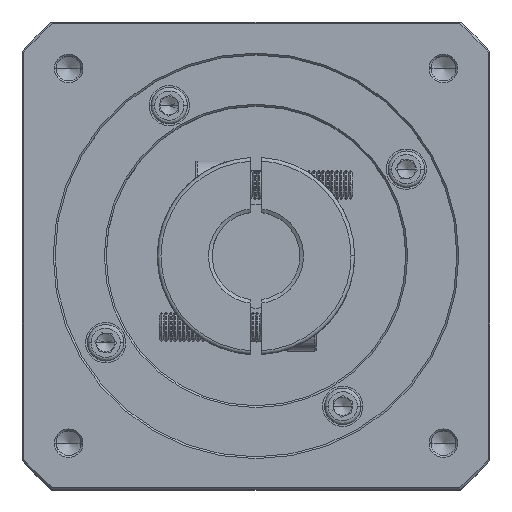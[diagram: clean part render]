
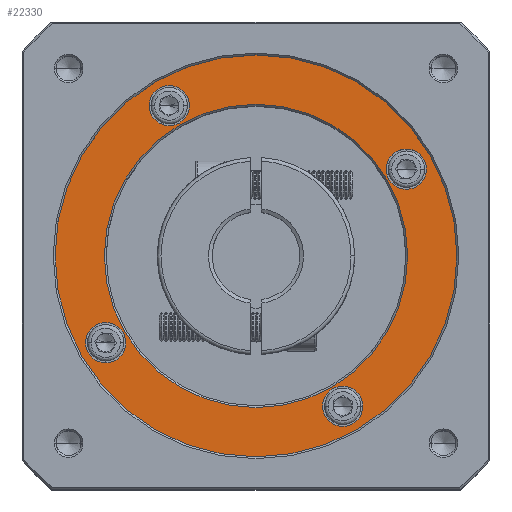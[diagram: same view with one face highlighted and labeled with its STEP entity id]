
A CAD part, top view. The second image highlights one B-rep face of the part: STEP entity #22330.
In plain terms, the highlighted planar face has unit normal (0, 0, 1).
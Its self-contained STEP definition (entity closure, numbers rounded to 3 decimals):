
#5219 = FACE_BOUND ( 'NONE', #47564, .T. ) ;
#5748 = VERTEX_POINT ( 'NONE', #69668 ) ;
#6393 = EDGE_CURVE ( 'NONE', #105119, #36752, #63730, .T. ) ;
#7152 = CARTESIAN_POINT ( 'NONE',  ( 24.26, 90.67, -0.976 ) ) ;
#7318 = ORIENTED_EDGE ( 'NONE', *, *, #81987, .T. ) ;
#8008 = ORIENTED_EDGE ( 'NONE', *, *, #84138, .T. ) ;
#8531 = DIRECTION ( 'NONE',  ( 1., 0., 0. ) ) ;
#9191 = EDGE_CURVE ( 'NONE', #5748, #97980, #69752, .T. ) ;
#10455 = AXIS2_PLACEMENT_3D ( 'NONE', #18388, #80839, #27429 ) ;
#10534 = EDGE_CURVE ( 'NONE', #74506, #17210, #57697, .T. ) ;
#11424 = CIRCLE ( 'NONE', #105085, 5.5 ) ;
#14105 = DIRECTION ( 'NONE',  ( 0., 0., -1. ) ) ;
#14406 = DIRECTION ( 'NONE',  ( 0., 0., -1. ) ) ;
#15172 = CARTESIAN_POINT ( 'NONE',  ( 59.896, 72.92, -0.976 ) ) ;
#15622 = VERTEX_POINT ( 'NONE', #49373 ) ;
#16678 = CARTESIAN_POINT ( 'NONE',  ( 101.032, 138.17, -0.976 ) ) ;
#16854 = CARTESIAN_POINT ( 'NONE',  ( 59.896, 114.42, -0.976 ) ) ;
#17210 = VERTEX_POINT ( 'NONE', #107295 ) ;
#17821 = EDGE_LOOP ( 'NONE', ( #112086, #58315 ) ) ;
#18333 = VERTEX_POINT ( 'NONE', #33547 ) ;
#18388 = CARTESIAN_POINT ( 'NONE',  ( 36.146, 155.556, -0.976 ) ) ;
#18606 = DIRECTION ( 'NONE',  ( 0., 0., -1. ) ) ;
#18688 = DIRECTION ( 'NONE',  ( 0., 0., -1. ) ) ;
#20865 = EDGE_CURVE ( 'NONE', #15622, #78513, #115205, .T. ) ;
#22330 = ADVANCED_FACE ( 'NONE', ( #100262, #52837, #55567, #29046, #5219, #97443 ), #34437, .T. ) ;
#23027 = AXIS2_PLACEMENT_3D ( 'NONE', #72123, #18606, #81052 ) ;
#24213 = DIRECTION ( 'NONE',  ( 0., 0., -1. ) ) ;
#25748 = DIRECTION ( 'NONE',  ( 1., 0., 0. ) ) ;
#25839 = ORIENTED_EDGE ( 'NONE', *, *, #20865, .T. ) ;
#25905 = DIRECTION ( 'NONE',  ( 1., 0., 0. ) ) ;
#27429 = DIRECTION ( 'NONE',  ( 1., 0., 0. ) ) ;
#28553 = CIRCLE ( 'NONE', #44494, 5.5 ) ;
#29046 = FACE_BOUND ( 'NONE', #79681, .T. ) ;
#30019 = ORIENTED_EDGE ( 'NONE', *, *, #80309, .T. ) ;
#31015 = AXIS2_PLACEMENT_3D ( 'NONE', #49898, #112299, #58830 ) ;
#31908 = AXIS2_PLACEMENT_3D ( 'NONE', #115507, #62113, #8531 ) ;
#33547 = CARTESIAN_POINT ( 'NONE',  ( 4.896, 114.42, -0.976 ) ) ;
#34009 = VERTEX_POINT ( 'NONE', #90938 ) ;
#34437 = PLANE ( 'NONE',  #39187 ) ;
#35274 = VERTEX_POINT ( 'NONE', #15172 ) ;
#35827 = CARTESIAN_POINT ( 'NONE',  ( 59.896, 114.42, -0.976 ) ) ;
#36172 = CARTESIAN_POINT ( 'NONE',  ( 83.646, 73.284, -0.976 ) ) ;
#36752 = VERTEX_POINT ( 'NONE', #37018 ) ;
#37018 = CARTESIAN_POINT ( 'NONE',  ( 78.146, 73.284, -0.976 ) ) ;
#39123 = EDGE_CURVE ( 'NONE', #17210, #74506, #28553, .T. ) ;
#39187 = AXIS2_PLACEMENT_3D ( 'NONE', #16854, #79326, #25905 ) ;
#40710 = AXIS2_PLACEMENT_3D ( 'NONE', #35827, #98269, #44791 ) ;
#40919 = EDGE_CURVE ( 'NONE', #35274, #34009, #83495, .T. ) ;
#44494 = AXIS2_PLACEMENT_3D ( 'NONE', #67861, #14406, #76893 ) ;
#44791 = DIRECTION ( 'NONE',  ( 0., -1., 0. ) ) ;
#45147 = DIRECTION ( 'NONE',  ( 1., 0., 0. ) ) ;
#46100 = CARTESIAN_POINT ( 'NONE',  ( 36.146, 155.556, -0.976 ) ) ;
#47564 = EDGE_LOOP ( 'NONE', ( #60559, #8008 ) ) ;
#49373 = CARTESIAN_POINT ( 'NONE',  ( 30.646, 155.556, -0.976 ) ) ;
#49898 = CARTESIAN_POINT ( 'NONE',  ( 59.896, 114.42, -0.976 ) ) ;
#52031 = EDGE_CURVE ( 'NONE', #56141, #18333, #111763, .T. ) ;
#52837 = FACE_BOUND ( 'NONE', #17821, .T. ) ;
#55095 = DIRECTION ( 'NONE',  ( 1., 0., 0. ) ) ;
#55567 = FACE_BOUND ( 'NONE', #90769, .T. ) ;
#56141 = VERTEX_POINT ( 'NONE', #101587 ) ;
#57697 = CIRCLE ( 'NONE', #91279, 5.5 ) ;
#57854 = CARTESIAN_POINT ( 'NONE',  ( 89.146, 73.284, -0.976 ) ) ;
#58315 = ORIENTED_EDGE ( 'NONE', *, *, #60699, .T. ) ;
#58830 = DIRECTION ( 'NONE',  ( 1., 0., 0. ) ) ;
#60559 = ORIENTED_EDGE ( 'NONE', *, *, #6393, .T. ) ;
#60699 = EDGE_CURVE ( 'NONE', #34009, #35274, #80351, .T. ) ;
#62113 = DIRECTION ( 'NONE',  ( 0., 0., 1. ) ) ;
#63730 = CIRCLE ( 'NONE', #78817, 5.5 ) ;
#64366 = CIRCLE ( 'NONE', #103900, 5.5 ) ;
#67589 = CARTESIAN_POINT ( 'NONE',  ( 18.76, 90.67, -0.976 ) ) ;
#67861 = CARTESIAN_POINT ( 'NONE',  ( 18.76, 90.67, -0.976 ) ) ;
#69668 = CARTESIAN_POINT ( 'NONE',  ( 95.532, 138.17, -0.976 ) ) ;
#69752 = CIRCLE ( 'NONE', #23027, 5.5 ) ;
#70125 = ORIENTED_EDGE ( 'NONE', *, *, #39123, .T. ) ;
#72123 = CARTESIAN_POINT ( 'NONE',  ( 101.032, 138.17, -0.976 ) ) ;
#72222 = CARTESIAN_POINT ( 'NONE',  ( 83.646, 73.284, -0.976 ) ) ;
#74506 = VERTEX_POINT ( 'NONE', #7152 ) ;
#76607 = DIRECTION ( 'NONE',  ( 1., 0., 0. ) ) ;
#76893 = DIRECTION ( 'NONE',  ( 1., 0., 0. ) ) ;
#77104 = ORIENTED_EDGE ( 'NONE', *, *, #9191, .T. ) ;
#77699 = CARTESIAN_POINT ( 'NONE',  ( 59.896, 114.42, -0.976 ) ) ;
#78513 = VERTEX_POINT ( 'NONE', #113192 ) ;
#78560 = ORIENTED_EDGE ( 'NONE', *, *, #84988, .T. ) ;
#78817 = AXIS2_PLACEMENT_3D ( 'NONE', #72222, #18688, #81138 ) ;
#79153 = DIRECTION ( 'NONE',  ( 0., 0., -1. ) ) ;
#79326 = DIRECTION ( 'NONE',  ( 0., 0., 1. ) ) ;
#79681 = EDGE_LOOP ( 'NONE', ( #30019, #25839 ) ) ;
#80309 = EDGE_CURVE ( 'NONE', #78513, #15622, #64366, .T. ) ;
#80351 = CIRCLE ( 'NONE', #80961, 41.5 ) ;
#80524 = CIRCLE ( 'NONE', #93671, 5.5 ) ;
#80839 = DIRECTION ( 'NONE',  ( 0., 0., -1. ) ) ;
#80961 = AXIS2_PLACEMENT_3D ( 'NONE', #77699, #24213, #86656 ) ;
#81052 = DIRECTION ( 'NONE',  ( 1., 0., 0. ) ) ;
#81138 = DIRECTION ( 'NONE',  ( 1., 0., 0. ) ) ;
#81987 = EDGE_CURVE ( 'NONE', #97980, #5748, #80524, .T. ) ;
#83495 = CIRCLE ( 'NONE', #40710, 41.5 ) ;
#84138 = EDGE_CURVE ( 'NONE', #36752, #105119, #11424, .T. ) ;
#84988 = EDGE_CURVE ( 'NONE', #18333, #56141, #100670, .T. ) ;
#86177 = EDGE_LOOP ( 'NONE', ( #110699, #78560 ) ) ;
#86656 = DIRECTION ( 'NONE',  ( 0., -1., 0. ) ) ;
#90769 = EDGE_LOOP ( 'NONE', ( #7318, #77104 ) ) ;
#90938 = CARTESIAN_POINT ( 'NONE',  ( 59.896, 155.92, -0.976 ) ) ;
#91279 = AXIS2_PLACEMENT_3D ( 'NONE', #67589, #14105, #76607 ) ;
#93671 = AXIS2_PLACEMENT_3D ( 'NONE', #16678, #79153, #25748 ) ;
#96198 = ORIENTED_EDGE ( 'NONE', *, *, #10534, .T. ) ;
#97443 = FACE_BOUND ( 'NONE', #114477, .T. ) ;
#97980 = VERTEX_POINT ( 'NONE', #111426 ) ;
#98269 = DIRECTION ( 'NONE',  ( 0., 0., -1. ) ) ;
#98583 = DIRECTION ( 'NONE',  ( 0., 0., -1. ) ) ;
#100262 = FACE_OUTER_BOUND ( 'NONE', #86177, .T. ) ;
#100670 = CIRCLE ( 'NONE', #31908, 55. ) ;
#101587 = CARTESIAN_POINT ( 'NONE',  ( 114.896, 114.42, -0.976 ) ) ;
#103900 = AXIS2_PLACEMENT_3D ( 'NONE', #46100, #108540, #55095 ) ;
#105085 = AXIS2_PLACEMENT_3D ( 'NONE', #36172, #98583, #45147 ) ;
#105119 = VERTEX_POINT ( 'NONE', #57854 ) ;
#107295 = CARTESIAN_POINT ( 'NONE',  ( 13.26, 90.67, -0.976 ) ) ;
#108540 = DIRECTION ( 'NONE',  ( 0., 0., -1. ) ) ;
#110699 = ORIENTED_EDGE ( 'NONE', *, *, #52031, .T. ) ;
#111426 = CARTESIAN_POINT ( 'NONE',  ( 106.532, 138.17, -0.976 ) ) ;
#111763 = CIRCLE ( 'NONE', #31015, 55. ) ;
#112086 = ORIENTED_EDGE ( 'NONE', *, *, #40919, .T. ) ;
#112299 = DIRECTION ( 'NONE',  ( 0., 0., 1. ) ) ;
#113192 = CARTESIAN_POINT ( 'NONE',  ( 41.646, 155.556, -0.976 ) ) ;
#114477 = EDGE_LOOP ( 'NONE', ( #96198, #70125 ) ) ;
#115205 = CIRCLE ( 'NONE', #10455, 5.5 ) ;
#115507 = CARTESIAN_POINT ( 'NONE',  ( 59.896, 114.42, -0.976 ) ) ;
